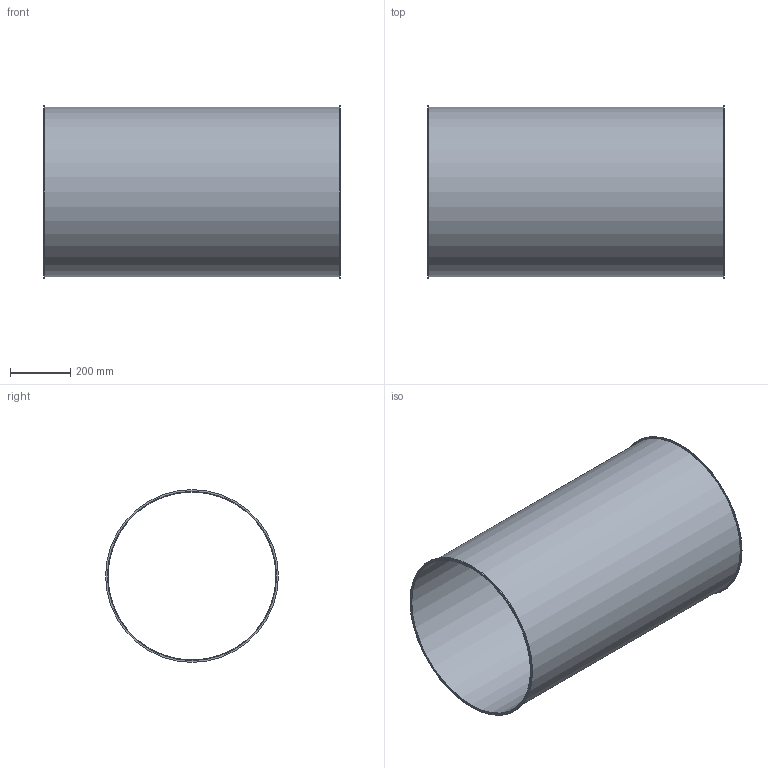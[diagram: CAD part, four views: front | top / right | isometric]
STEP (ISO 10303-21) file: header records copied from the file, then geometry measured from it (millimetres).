
FILE_DESCRIPTION((''),'2;1');
FILE_NAME('U:\Wolfgang\Marcel-3D\fertig\Kapitel 1\5621002.stp','2010-05-31T12:36:08',('TK2'),(''),'Autodesk Inventor 2010','Autodesk Inventor 2010','');
FILE_SCHEMA(('AUTOMOTIVE_DESIGN { 1 0 10303 214 1 1 1 1 }'));
Length unit declared in the file: millimetre
Products named in the file (1): 5621002
Bounding box: 986 x 574 x 574 mm (x, y, z)
Volume: 3512149.8 mm3; surface area: 3519337.8 mm2
Topology: 1 solids, 1 shells, 8 faces, 12 edges, 8 vertices
Faces by surface type: cylinder 4, plane 4
Full cylindrical faces by diameter (mm): 558 x1, 562 x1, 574 x2
Entity records: 194 total; most frequent: DIRECTION 34, CARTESIAN_POINT 25, AXIS2_PLACEMENT_3D 17, ORIENTED_EDGE 16, EDGE_LOOP 16, VERTEX_POINT 8, CIRCLE 8, EDGE_CURVE 8
